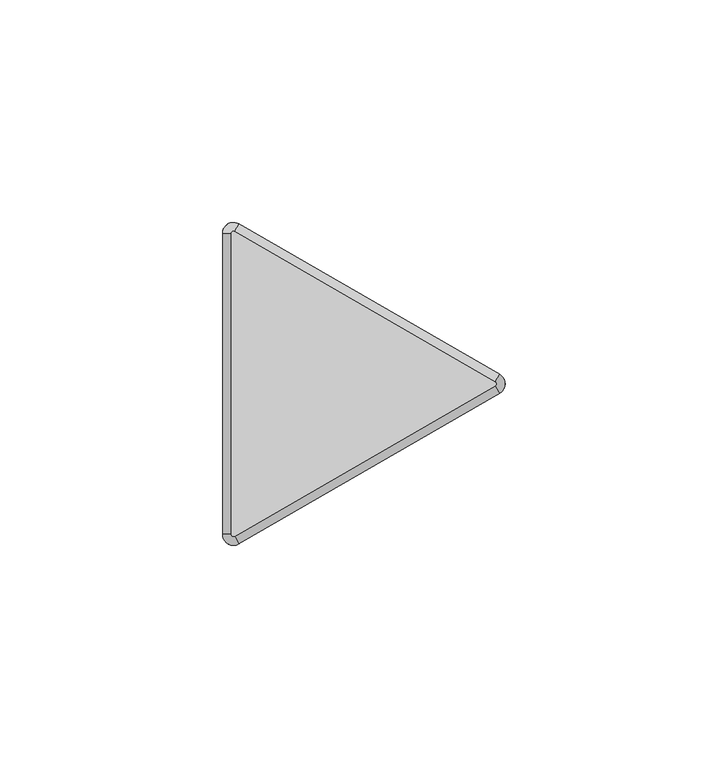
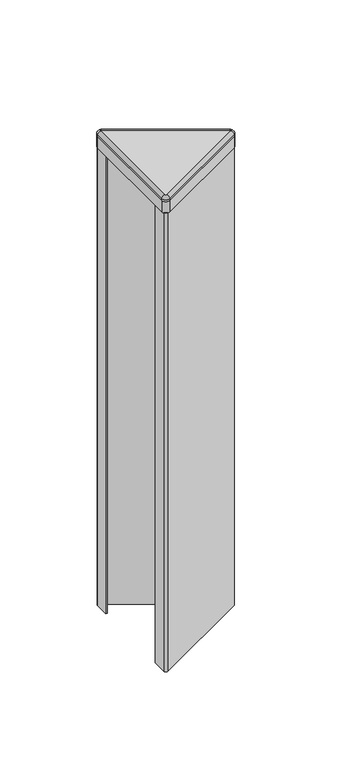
"""IFC4 building model written with IfcOpenShell, lengths in millimetres: furniture geometry, Steelcase - Answer Solution - Panel - 120deg Change-of-Height Trim - Thin : Y Corner - 12H for 48H App."""

from ifc_helpers import new_model, si_unit, point, frame, frame_2d, origin, place, context, project, spatial, polyline, circle_curve, ellipse_curve, trimmed, segment, composite_curve, outline, extrude, source, transform, mapped, element, save
from ifc_brep_helpers import plane_surface, cylinder_surface, revolved_surface, advanced_brep


def furniture_97fe25e5(model_context):
    return source(origin(), model_context, "Body", "SolidModel", [
        advanced_brep(
        [(-10.518645, -37.3335529, 1223.6628978), (-14.2052101, -35.2051135, 1223.6628978), (-14.2052101, -35.2051135, 1222.7164663), (-10.518645, -37.3335529, 1222.7164663), (-11.46175, -35.7000471, 1225.55), (-12.319, -35.2051135, 1225.55), (-11.46175, -35.7000471, 1222.7164663), (-12.319, -35.2051135, 1222.7164663), (48.0429908, -3.5229767, 1222.7164663), (48.0429908, -3.5229767, 1223.6628978), (47.0998858, -1.8894709, 1225.55), (47.0998858, -1.8894709, 1222.7164663), (48.0429908, 0.733902, 1223.6628978), (48.0429908, 0.733902, 1222.7164663), (47.0998858, -0.8996038, 1225.55), (47.0998858, -0.8996038, 1222.7164663), (-10.518645, 34.5444782, 1222.7164663), (-14.2052101, 32.4160388, 1222.7164663), (-11.46175, 32.9109723, 1222.7164663), (-12.319, 32.4160388, 1222.7164663), (-10.518645, 34.5444782, 1223.6628978), (-11.46175, 32.9109723, 1225.55), (-14.2052101, 32.4160388, 1223.6628978), (-12.319, 32.4160388, 1225.55)],
        [
            (0, 1, circle_curve(frame((-11.7475, -35.2051135, 1223.6628978), z_axis=(0.0, 0.0, -1.0), x_axis=(-1.0, 0.0, 0.0)), 2.4577101)),
            (1, 2),
            (2, 3, circle_curve(frame((-11.7475, -35.2051135, 1222.7164663), z_axis=(0.0, 0.0, 1.0), x_axis=(-1.0, 0.0, 0.0)), 2.4577101)),
            (3, 0),
            (4, 5, circle_curve(frame((-11.7475, -35.2051135, 1225.55), z_axis=(0.0, 0.0, -1.0), x_axis=(-1.0, 0.0, 0.0)), 0.5715)),
            (5, 1, circle_curve(frame((-12.3181076, -35.2051135, 1223.6628978), z_axis=(0.0, -1.0, 0.0), x_axis=(1.0, 0.0, 0.0)), 1.8871024)),
            (0, 4, circle_curve(frame((-11.4621962, -35.6992743, 1223.6628978), z_axis=(-0.8660254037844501, -0.49999999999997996, 0.0), x_axis=(-0.49999999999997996, 0.8660254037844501, 0.0)), 1.8871024)),
            (6, 7, circle_curve(frame((-11.7475, -35.2051135, 1222.7164663), z_axis=(0.0, 0.0, -1.0), x_axis=(-1.0, 0.0, 0.0)), 0.5715)),
            (7, 5),
            (4, 6),
            (3, 8),
            (8, 9),
            (9, 0),
            (9, 10, circle_curve(frame((47.0994396, -1.8886981, 1223.6628978), z_axis=(-0.8660254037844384, -0.5000000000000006, 0.0), x_axis=(-0.5000000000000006, 0.8660254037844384, 0.0)), 1.8871024)),
            (10, 4),
            (10, 11),
            (11, 6),
            (12, 9, circle_curve(frame((46.8141358, -1.3945374, 1223.6628978), z_axis=(0.0, 0.0, -1.0), x_axis=(0.4999999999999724, -0.8660254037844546, 0.0)), 2.4577101)),
            (8, 13, circle_curve(frame((46.8141358, -1.3945374, 1222.7164663), z_axis=(0.0, 0.0, 1.0), x_axis=(0.4999999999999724, -0.8660254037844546, 0.0)), 2.4577101)),
            (13, 12),
            (14, 10, circle_curve(frame((46.8141358, -1.3945374, 1225.55), z_axis=(0.0, 0.0, -1.0), x_axis=(0.4999999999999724, -0.8660254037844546, 0.0)), 0.5715)),
            (12, 14, circle_curve(frame((47.0994396, -0.9003766, 1223.6628978), z_axis=(0.8660254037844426, -0.49999999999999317, 0.0), x_axis=(-0.49999999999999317, -0.8660254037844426, 0.0)), 1.8871024)),
            (15, 11, circle_curve(frame((46.8141358, -1.3945374, 1222.7164663), z_axis=(0.0, 0.0, -1.0), x_axis=(0.4999999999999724, -0.8660254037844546, 0.0)), 0.5715)),
            (14, 15),
            (16, 13),
            (2, 17),
            (17, 16, circle_curve(frame((-11.7475, 32.4160388, 1222.7164663), z_axis=(0.0, 0.0, -1.0), x_axis=(0.500000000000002, 0.8660254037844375, 0.0)), 2.4577101)),
            (15, 18),
            (18, 19, circle_curve(frame((-11.7475, 32.4160388, 1222.7164663), z_axis=(0.0, 0.0, 1.0), x_axis=(0.500000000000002, 0.8660254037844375, 0.0)), 0.5715)),
            (19, 7),
            (16, 20),
            (20, 12),
            (20, 21, circle_curve(frame((-11.4621962, 32.9101995, 1223.6628978), z_axis=(0.8660254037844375, -0.5000000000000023, 0.0), x_axis=(-0.5000000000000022, -0.8660254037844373, 0.0)), 1.8871024)),
            (21, 14),
            (21, 18),
            (22, 20, circle_curve(frame((-11.7475, 32.4160388, 1223.6628978), z_axis=(0.0, 0.0, -1.0), x_axis=(0.500000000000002, 0.8660254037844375, 0.0)), 2.4577101)),
            (17, 22),
            (23, 21, circle_curve(frame((-11.7475, 32.4160388, 1225.55), z_axis=(0.0, 0.0, -1.0), x_axis=(0.500000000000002, 0.8660254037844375, 0.0)), 0.5715)),
            (22, 23, circle_curve(frame((-12.3181076, 32.4160388, 1223.6628978), z_axis=(0.0, 1.0, 0.0), x_axis=(1.0, 0.0, 0.0)), 1.8871024)),
            (23, 19),
            (1, 22),
            (5, 23),
        ],
        [
            cylinder_surface(frame((-11.7475, -35.2051135, 0.0), z_axis=(0.0, 0.0, 1.0), x_axis=(-1.0, 0.0, 0.0)), 2.4577101),
            revolved_surface(trimmed(ellipse_curve(frame((-12.3181076, -35.2051135, 1223.6628978), z_axis=(0.0, 1.0, 0.0), x_axis=(1.0, 0.0, 0.0)), 1.8871024, 1.8871024), [point((-14.2052101, -35.2051135, 1223.6628978))], [point((-12.319, -35.2051135, 1225.55))], True, "CARTESIAN"), (-11.7475, -35.2051135, 0.0), (0.0, 0.0, 1.0)),
            revolved_surface(polyline([(-12.319, -35.2051135, 1225.55), (-12.319, -35.2051135, 1222.7164663)]), (-11.7475, -35.2051135, 0.0), (0.0, 0.0, 1.0)),
            plane_surface(frame((-10.518645, -37.3335529, 1222.7164663), z_axis=(0.500000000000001, -0.8660254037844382, 0.0), x_axis=(0.8660254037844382, 0.500000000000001, 0.0))),
            cylinder_surface(frame((-11.4621962, -35.6992743, 1223.6628978), z_axis=(-0.8660254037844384, -0.5000000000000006, 0.0), x_axis=(-0.5000000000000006, 0.8660254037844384, 0.0)), 1.8871024),
            plane_surface(frame((-11.46175, -35.7000471, 1225.55), z_axis=(-0.500000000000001, 0.8660254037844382, 0.0), x_axis=(0.8660254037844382, 0.500000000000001, 0.0))),
            cylinder_surface(frame((46.8141358, -1.3945374, 0.0), z_axis=(0.0, 0.0, 1.0), x_axis=(0.4999999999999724, -0.8660254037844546, 0.0)), 2.4577101),
            revolved_surface(trimmed(ellipse_curve(frame((47.0994396, -1.8886981, 1223.6628978), z_axis=(-0.8660254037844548, -0.499999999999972, 0.0), x_axis=(-0.499999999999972, 0.8660254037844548, 0.0)), 1.8871024, 1.8871024), [point((48.0429908, -3.5229767, 1223.6628978))], [point((47.0998858, -1.8894709, 1225.55))], True, "CARTESIAN"), (46.8141358, -1.3945374, 0.0), (0.0, 0.0, 1.0)),
            revolved_surface(polyline([(47.09988579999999, -1.8894709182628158, 1225.55), (47.09988579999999, -1.8894709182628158, 1222.7164663)]), (46.8141358, -1.3945374, 0.0), (0.0, 0.0, 1.0)),
            plane_surface(frame((47.0998858, -0.8996038, 1222.7164663), z_axis=(0.0, 0.0, -1.0), x_axis=(-0.866025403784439, 0.49999999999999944, 0.0))),
            plane_surface(frame((48.0429908, 0.733902, 1222.7164663), z_axis=(0.5000000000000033, 0.8660254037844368, 0.0), x_axis=(-0.8660254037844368, 0.5000000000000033, 0.0))),
            cylinder_surface(frame((47.0994396, -0.9003766, 1223.6628978), z_axis=(0.8660254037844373, -0.5000000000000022, 0.0), x_axis=(-0.5000000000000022, -0.8660254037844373, 0.0)), 1.8871024),
            plane_surface(frame((47.0998858, -0.8996038, 1225.55), z_axis=(-0.49999999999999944, -0.866025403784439, 0.0), x_axis=(-0.866025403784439, 0.49999999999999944, 0.0))),
            cylinder_surface(frame((-11.7475, 32.4160388, 0.0), z_axis=(0.0, 0.0, 1.0), x_axis=(0.500000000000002, 0.8660254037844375, 0.0)), 2.4577101),
            revolved_surface(trimmed(ellipse_curve(frame((-11.4621962, 32.9101995, 1223.6628978), z_axis=(0.866025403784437, -0.5000000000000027, 0.0), x_axis=(-0.5000000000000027, -0.866025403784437, 0.0)), 1.8871024, 1.8871024), [point((-10.518645, 34.5444782, 1223.6628978))], [point((-11.46175, 32.9109723, 1225.55))], True, "CARTESIAN"), (-11.7475, 32.4160388, 0.0), (0.0, 0.0, 1.0)),
            revolved_surface(polyline([(-11.461749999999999, 32.91097231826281, 1225.55), (-11.461749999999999, 32.91097231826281, 1222.7164663)]), (-11.7475, 32.4160388, 0.0), (0.0, 0.0, 1.0)),
            plane_surface(frame((-14.2052101, 32.4160388, 1222.7164663), z_axis=(-1.0, 0.0, 0.0), x_axis=(0.0, -1.0, 0.0))),
            cylinder_surface(frame((-12.3181076, 32.4160388, 1223.6628978), z_axis=(0.0, 1.0, 0.0), x_axis=(1.0, 0.0, 0.0)), 1.8871024),
            plane_surface(frame((-12.319, 32.4160388, 1225.55), z_axis=(1.0, 0.0, 0.0), x_axis=(0.0, -1.0, 0.0))),
        ],
        [
            (0, [[1, 2, 3, 4]]),
            (1, [[5, 6, -1, 7]]),
            (2, [[8, 9, -5, 10]]),
            (3, [[-4, 11, 12, 13]]),
            (4, [[-7, -13, 14, 15]]),
            (5, [[-10, -15, 16, 17]]),
            (6, [[18, -12, 19, 20]]),
            (7, [[21, -14, -18, 22]]),
            (8, [[23, -16, -21, 24]]),
            (9, [[25, -19, -11, -3, 26, 27], [-8, -17, -23, 28, 29, 30]]),
            (10, [[-20, -25, 31, 32]]),
            (11, [[-22, -32, 33, 34]]),
            (12, [[-24, -34, 35, -28]]),
            (13, [[36, -31, -27, 37]]),
            (14, [[38, -33, -36, 39]]),
            (15, [[-29, -35, -38, 40]]),
            (16, [[-37, -26, -2, 41]]),
            (17, [[-39, -41, -6, 42]]),
            (18, [[-40, -42, -9, -30]]),
        ],
    ),
        extrude(outline(composite_curve([segment(trimmed(circle_curve(frame_2d((47.9522001, -1.3945374)), 1.2978651), [point((48.6011327, -0.2705532))], [point((48.6011327, -2.5185215))], False, "CARTESIAN"), True, "CONTINUOUS"), segment(polyline([(48.6011327, -2.5185215), (-11.6879343, -37.3264306)]), True, "CONTINUOUS"), segment(trimmed(circle_curve(frame_2d((-12.3300896, -36.2141852)), 1.2843104), [point((-11.6879343, -37.3264306))], [point((-13.6144, -36.2141852))], False, "CARTESIAN"), True, "CONTINUOUS"), segment(polyline([(-13.6144, -36.2141852), (-13.6144, -27.3303775), (-12.7, -27.3303775), (-12.7, -36.8548888), (48.7191304, -1.3945374), (-12.7, 34.0658141), (-12.7, 24.5413027), (-13.6144, 24.5413027), (-13.6144, 33.4106259)]), True, "CONTINUOUS"), segment(trimmed(circle_curve(frame_2d((-12.3217269, 33.4106259)), 1.2926731), [point((-13.6144, 33.4106259))], [point((-11.6753904, 34.5301136))], False, "CARTESIAN"), True, "CONTINUOUS"), segment(polyline([(-11.6753904, 34.5301136), (48.6011327, -0.2705532)]), True, "CONTINUOUS")], self_intersect=False)), frame((0.0, 0.0, 920.75), z_axis=(0.0, 0.0, 1.0), x_axis=(1.0, 0.0, 0.0)), (0.0, 0.0, 1.0), 294.64),
        extrude(outline(composite_curve([segment(trimmed(circle_curve(frame_2d((46.8261011, -1.3945374)), 0.5655173), [point((47.1088598, -0.904785))], [point((47.1088598, -1.8842897))], False, "CARTESIAN"), True, "CONTINUOUS"), segment(polyline([(47.1088598, -1.8842897), (-11.4505119, -35.6935587)]), True, "CONTINUOUS"), segment(trimmed(circle_curve(frame_2d((-11.7400079, -35.1921369)), 0.5789921), [point((-11.4505119, -35.6935587))], [point((-12.319, -35.1921369))], False, "CARTESIAN"), True, "CONTINUOUS"), segment(polyline([(-12.319, -35.1921369), (-12.319, 32.3985888)]), True, "CONTINUOUS"), segment(trimmed(circle_curve(frame_2d((-11.7374252, 32.3985888)), 0.5815748), [point((-12.319, 32.3985888))], [point((-11.4466378, 32.9022473))], False, "CARTESIAN"), True, "CONTINUOUS"), segment(polyline([(-11.4466378, 32.9022473), (47.1088598, -0.904785)]), True, "CONTINUOUS")], self_intersect=False)), frame((0.0, 0.0, 1222.7164663), z_axis=(0.0, 0.0, 1.0), x_axis=(1.0, 0.0, 0.0)), (0.0, 0.0, 1.0), 2.8335337),
        extrude(outline(composite_curve([segment(trimmed(circle_curve(frame_2d((46.8140443, -1.3945374)), 2.4577558), [point((48.0429222, 0.7339416))], [point((48.0429222, -3.5230163))], False, "CARTESIAN"), True, "CONTINUOUS"), segment(polyline([(48.0429222, -3.5230163), (-10.518058, -37.333214)]), True, "CONTINUOUS"), segment(trimmed(circle_curve(frame_2d((-11.7471087, -35.2044357)), 2.4581014), [point((-10.518058, -37.333214))], [point((-14.2052101, -35.2044357))], False, "CARTESIAN"), True, "CONTINUOUS"), segment(polyline([(-14.2052101, -35.2044357), (-14.2052101, 32.4160388)]), True, "CONTINUOUS"), segment(trimmed(circle_curve(frame_2d((-11.7475, 32.4160388)), 2.4577101), [point((-14.2052101, 32.4160388))], [point((-10.518645, 34.5444782))], False, "CARTESIAN"), True, "CONTINUOUS"), segment(polyline([(-10.518645, 34.5444782), (48.0429222, 0.7339416)]), True, "CONTINUOUS")], self_intersect=False)), frame((0.0, 0.0, 1215.39), z_axis=(0.0, 0.0, 1.0), x_axis=(1.0, 0.0, 0.0)), (0.0, 0.0, 1.0), 7.3264663),
    ])


if __name__ == "__main__":
    model = new_model("IFC4")
    model_context = context("Model", 3, world=origin())
    ifc_project = project(units=[si_unit("LENGTHUNIT", "METRE", prefix="MILLI")], contexts=[model_context])
    site = spatial("IfcSite", under=ifc_project)
    building = spatial("IfcBuilding", under=site)
    placement = place(None, origin())
    furniture_shape = furniture_97fe25e5(model_context)
    element("IfcFurniture", 1, ObjectType="Steelcase - Answer Solution - Panel - 120deg Change-of-Height Trim - Thin : Y Corner - 12H for 48H App", at=placement, inside=building, context=model_context, shape_type="MappedRepresentation", body=[
        mapped(furniture_shape, transform((0.0, 0.0, 0.0), x_axis=(1.0, 0.0, 0.0), y_axis=(0.0, 1.0, 0.0), z_axis=(0.0, 0.0, 1.0))),
    ])
    save(model, "model.ifc")
